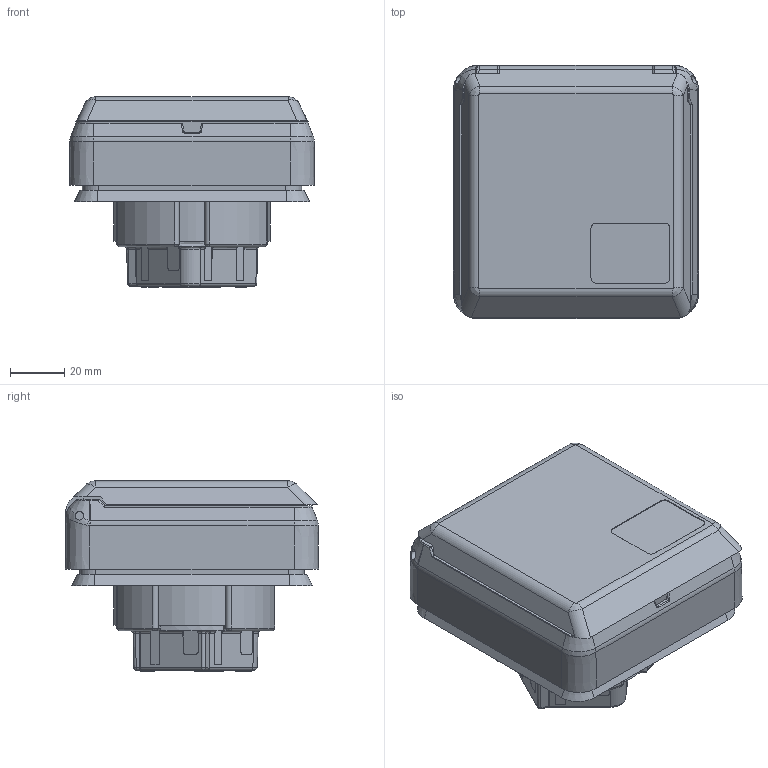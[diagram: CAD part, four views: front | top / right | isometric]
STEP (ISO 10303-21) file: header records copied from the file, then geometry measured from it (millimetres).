
FILE_DESCRIPTION((''),'2;1');
FILE_NAME('1117944_ASM_SW0001','2018-08-21T',('Gisse'),('MENNEKES'),'PRO/ENGINEER BY PARAMETRIC TECHNOLOGY CORPORATION, 2015440','PRO/ENGINEER BY PARAMETRIC TECHNOLOGY CORPORATION, 2015440','');
FILE_SCHEMA(('AUTOMOTIVE_DESIGN { 1 0 10303 214 1 1 1 1 }'));
Length unit declared in the file: millimetre
Products named in the file (1): 1117944_ASM_SW0001
Bounding box: 90 x 93 x 69.8 mm (x, y, z)
Volume: 353109.8 mm3; surface area: 42557 mm2
Topology: 1 solids, 1 shells, 588 faces, 1543 edges, 978 vertices
Faces by surface type: plane 241, cylinder 161, extrusion 86, bspline 56, torus 22, cone 12, sphere 10
Entity records: 27714 total; most frequent: CARTESIAN_POINT 6390, ORIENTED_EDGE 3086, DIRECTION 2529, EDGE_CURVE 1543, FILL_AREA_STYLE_COLOUR 1126, FILL_AREA_STYLE 1126, SURFACE_STYLE_FILL_AREA 1126, SURFACE_SIDE_STYLE 1126
